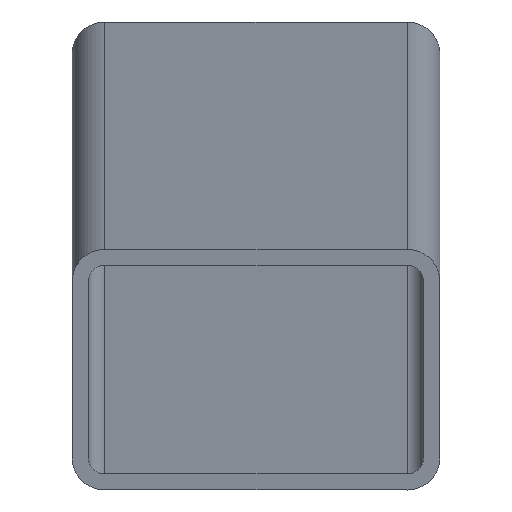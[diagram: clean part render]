
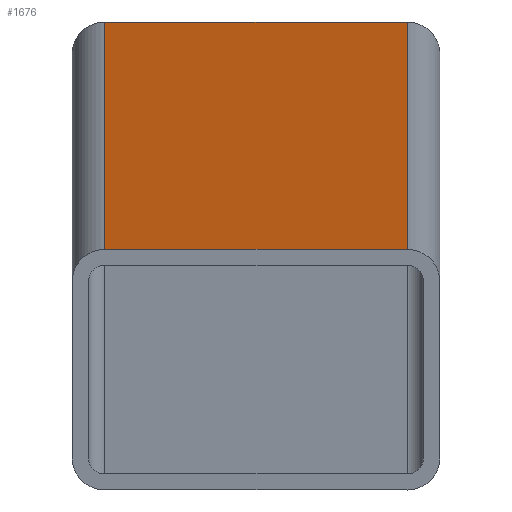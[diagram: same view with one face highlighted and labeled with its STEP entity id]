
A CAD part, left-side view. The second image highlights one B-rep face of the part: STEP entity #1676.
In plain terms, the highlighted planar face has unit normal (-0.104, 0, 0.995).
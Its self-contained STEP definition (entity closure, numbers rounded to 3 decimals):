
#72 = PLANE('',#73);
#73 = AXIS2_PLACEMENT_3D('',#74,#75,#76);
#74 = CARTESIAN_POINT('',(-410.752,-70.991,-487.45
    ));
#75 = DIRECTION('',(0.974,0.,0.225)
  );
#76 = DIRECTION('',(-0.225,0.,0.974)
  );
#126 = PLANE('',#127);
#127 = AXIS2_PLACEMENT_3D('',#128,#129,#130);
#128 = CARTESIAN_POINT('',(-1497.111,-70.991,
    -480.97));
#129 = DIRECTION('',(0.974,0.,0.225)
  );
#130 = DIRECTION('',(-0.225,0.,0.974)
  );
#614 = VERTEX_POINT('',#615);
#615 = CARTESIAN_POINT('',(-1497.111,-70.991,
    -480.97));
#667 = CYLINDRICAL_SURFACE('',#668,16.);
#668 = AXIS2_PLACEMENT_3D('',#669,#670,#671);
#669 = CARTESIAN_POINT('',(-958.531,-70.991,
    -440.451));
#670 = DIRECTION('',(0.995,0.,0.105)
  );
#671 = DIRECTION('',(-0.105,0.,0.995
    ));
#723 = EDGE_CURVE('',#724,#614,#726,.T.);
#724 = VERTEX_POINT('',#725);
#725 = CARTESIAN_POINT('',(-1497.111,77.009,
    -480.97));
#726 = SURFACE_CURVE('',#727,(#731,#738),.PCURVE_S1.);
#727 = LINE('',#728,#729);
#728 = CARTESIAN_POINT('',(-1497.111,3.009,
    -480.97));
#729 = VECTOR('',#730,1.);
#730 = DIRECTION('',(0.,-1.,0.));
#731 = PCURVE('',#126,#732);
#732 = DEFINITIONAL_REPRESENTATION('',(#733),#737);
#733 = LINE('',#734,#735);
#734 = CARTESIAN_POINT('',(0.,-74.));
#735 = VECTOR('',#736,1.);
#736 = DIRECTION('',(0.,1.));
#737 = ( GEOMETRIC_REPRESENTATION_CONTEXT(2) 
PARAMETRIC_REPRESENTATION_CONTEXT() REPRESENTATION_CONTEXT('2D SPACE',''
  ) );
#738 = PCURVE('',#739,#744);
#739 = PLANE('',#740);
#740 = AXIS2_PLACEMENT_3D('',#741,#742,#743);
#741 = CARTESIAN_POINT('',(-1497.111,77.009,
    -480.97));
#742 = DIRECTION('',(-0.105,0.,0.995
    ));
#743 = DIRECTION('',(0.,-1.,0.));
#744 = DEFINITIONAL_REPRESENTATION('',(#745),#749);
#745 = LINE('',#746,#747);
#746 = CARTESIAN_POINT('',(74.,0.));
#747 = VECTOR('',#748,1.);
#748 = DIRECTION('',(1.,0.));
#749 = ( GEOMETRIC_REPRESENTATION_CONTEXT(2) 
PARAMETRIC_REPRESENTATION_CONTEXT() REPRESENTATION_CONTEXT('2D SPACE',''
  ) );
#803 = CYLINDRICAL_SURFACE('',#804,16.);
#804 = AXIS2_PLACEMENT_3D('',#805,#806,#807);
#805 = CARTESIAN_POINT('',(-958.531,77.009,
    -440.451));
#806 = DIRECTION('',(0.995,0.,0.105)
  );
#807 = DIRECTION('',(-0.105,0.,0.995
    ));
#1553 = EDGE_CURVE('',#724,#1554,#1556,.T.);
#1554 = VERTEX_POINT('',#1555);
#1555 = CARTESIAN_POINT('',(-437.949,77.009,
    -369.647));
#1556 = SURFACE_CURVE('',#1557,(#1561,#1568),.PCURVE_S1.);
#1557 = LINE('',#1558,#1559);
#1558 = CARTESIAN_POINT('',(-1497.111,77.009,
    -480.97));
#1559 = VECTOR('',#1560,1.);
#1560 = DIRECTION('',(0.995,0.,0.105)
  );
#1561 = PCURVE('',#803,#1562);
#1562 = DEFINITIONAL_REPRESENTATION('',(#1563),#1567);
#1563 = LINE('',#1564,#1565);
#1564 = CARTESIAN_POINT('',(6.283,-539.865));
#1565 = VECTOR('',#1566,1.);
#1566 = DIRECTION('',(0.,1.));
#1567 = ( GEOMETRIC_REPRESENTATION_CONTEXT(2) 
PARAMETRIC_REPRESENTATION_CONTEXT() REPRESENTATION_CONTEXT('2D SPACE',''
  ) );
#1568 = PCURVE('',#739,#1569);
#1569 = DEFINITIONAL_REPRESENTATION('',(#1570),#1574);
#1570 = LINE('',#1571,#1572);
#1571 = CARTESIAN_POINT('',(0.,0.));
#1572 = VECTOR('',#1573,1.);
#1573 = DIRECTION('',(0.,1.));
#1574 = ( GEOMETRIC_REPRESENTATION_CONTEXT(2) 
PARAMETRIC_REPRESENTATION_CONTEXT() REPRESENTATION_CONTEXT('2D SPACE',''
  ) );
#1676 = ADVANCED_FACE('',(#1677),#739,.T.);
#1677 = FACE_BOUND('',#1678,.T.);
#1678 = EDGE_LOOP('',(#1679,#1680,#1681,#1704));
#1679 = ORIENTED_EDGE('',*,*,#1553,.F.);
#1680 = ORIENTED_EDGE('',*,*,#723,.T.);
#1681 = ORIENTED_EDGE('',*,*,#1682,.T.);
#1682 = EDGE_CURVE('',#614,#1683,#1685,.T.);
#1683 = VERTEX_POINT('',#1684);
#1684 = CARTESIAN_POINT('',(-437.949,-70.991,
    -369.647));
#1685 = SURFACE_CURVE('',#1686,(#1690,#1697),.PCURVE_S1.);
#1686 = LINE('',#1687,#1688);
#1687 = CARTESIAN_POINT('',(-1497.111,-70.991,
    -480.97));
#1688 = VECTOR('',#1689,1.);
#1689 = DIRECTION('',(0.995,0.,0.105)
  );
#1690 = PCURVE('',#739,#1691);
#1691 = DEFINITIONAL_REPRESENTATION('',(#1692),#1696);
#1692 = LINE('',#1693,#1694);
#1693 = CARTESIAN_POINT('',(148.,0.));
#1694 = VECTOR('',#1695,1.);
#1695 = DIRECTION('',(0.,1.));
#1696 = ( GEOMETRIC_REPRESENTATION_CONTEXT(2) 
PARAMETRIC_REPRESENTATION_CONTEXT() REPRESENTATION_CONTEXT('2D SPACE',''
  ) );
#1697 = PCURVE('',#667,#1698);
#1698 = DEFINITIONAL_REPRESENTATION('',(#1699),#1703);
#1699 = LINE('',#1700,#1701);
#1700 = CARTESIAN_POINT('',(0.,-539.865));
#1701 = VECTOR('',#1702,1.);
#1702 = DIRECTION('',(0.,1.));
#1703 = ( GEOMETRIC_REPRESENTATION_CONTEXT(2) 
PARAMETRIC_REPRESENTATION_CONTEXT() REPRESENTATION_CONTEXT('2D SPACE',''
  ) );
#1704 = ORIENTED_EDGE('',*,*,#1705,.F.);
#1705 = EDGE_CURVE('',#1554,#1683,#1706,.T.);
#1706 = SURFACE_CURVE('',#1707,(#1711,#1718),.PCURVE_S1.);
#1707 = LINE('',#1708,#1709);
#1708 = CARTESIAN_POINT('',(-437.949,77.009,
    -369.647));
#1709 = VECTOR('',#1710,1.);
#1710 = DIRECTION('',(0.,-1.,0.));
#1711 = PCURVE('',#739,#1712);
#1712 = DEFINITIONAL_REPRESENTATION('',(#1713),#1717);
#1713 = LINE('',#1714,#1715);
#1714 = CARTESIAN_POINT('',(0.,1064.996));
#1715 = VECTOR('',#1716,1.);
#1716 = DIRECTION('',(1.,0.));
#1717 = ( GEOMETRIC_REPRESENTATION_CONTEXT(2) 
PARAMETRIC_REPRESENTATION_CONTEXT() REPRESENTATION_CONTEXT('2D SPACE',''
  ) );
#1718 = PCURVE('',#72,#1719);
#1719 = DEFINITIONAL_REPRESENTATION('',(#1720),#1724);
#1720 = LINE('',#1721,#1722);
#1721 = CARTESIAN_POINT('',(120.901,-148.));
#1722 = VECTOR('',#1723,1.);
#1723 = DIRECTION('',(0.,1.));
#1724 = ( GEOMETRIC_REPRESENTATION_CONTEXT(2) 
PARAMETRIC_REPRESENTATION_CONTEXT() REPRESENTATION_CONTEXT('2D SPACE',''
  ) );
